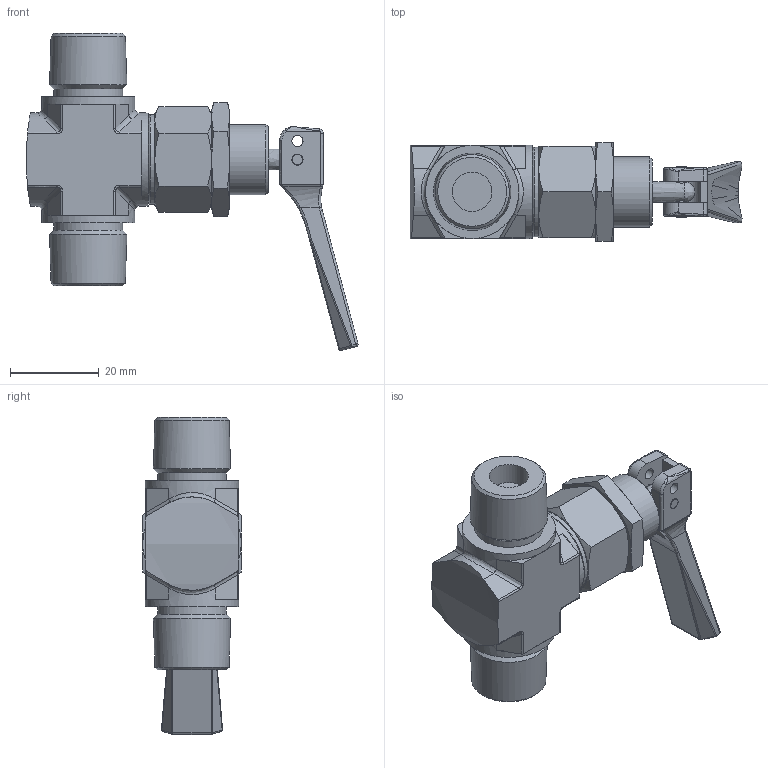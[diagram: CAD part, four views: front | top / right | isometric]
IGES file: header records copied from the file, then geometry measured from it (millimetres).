
Global section: file name: STV3-M6N; native system: Autodesk Inventor 2016; preprocessor: unknown; author: 이승민,,11,0; organization: 20161227.231954; date: 20161229.080805; units: millimetre
Bounding box: 74.73 x 22.2 x 71.39 mm (x, y, z)
Volume: 28530.4 mm3; surface area: 13171.6 mm2
Topology: 6 solids, 6 shells, 280 faces, 692 edges, 431 vertices
Faces by surface type: bspline 280
